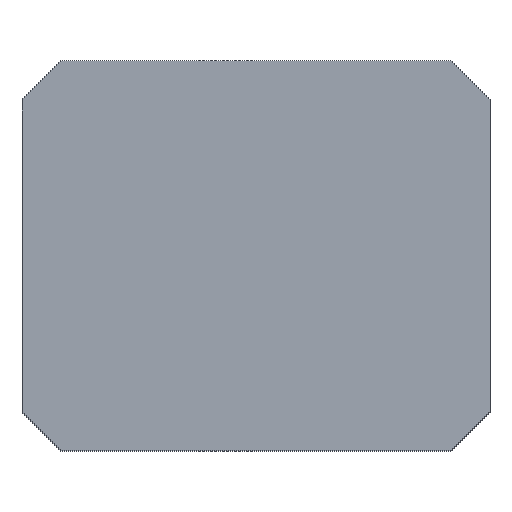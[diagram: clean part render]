
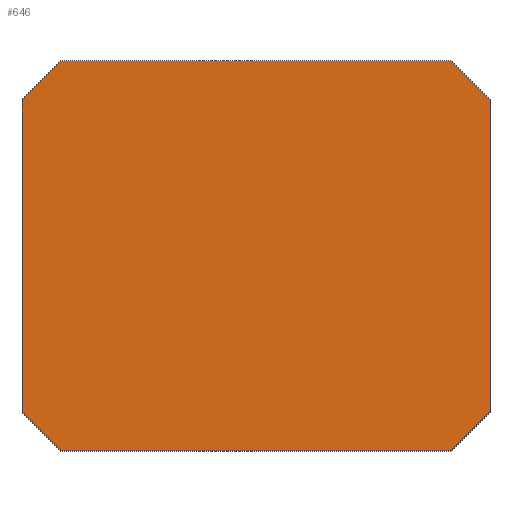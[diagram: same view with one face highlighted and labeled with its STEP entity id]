
A CAD part, top view. The second image highlights one B-rep face of the part: STEP entity #646.
In plain terms, the highlighted planar face has unit normal (0, 0, 1).
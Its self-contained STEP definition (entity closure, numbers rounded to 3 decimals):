
#24 = VERTEX_POINT('',#25);
#25 = CARTESIAN_POINT('',(-5.,-5.,28.685));
#32 = PLANE('',#33);
#33 = AXIS2_PLACEMENT_3D('',#34,#35,#36);
#34 = CARTESIAN_POINT('',(-5.,-5.,27.685));
#35 = DIRECTION('',(0.,1.,0.));
#36 = DIRECTION('',(1.,0.,0.));
#44 = PLANE('',#45);
#45 = AXIS2_PLACEMENT_3D('',#46,#47,#48);
#46 = CARTESIAN_POINT('',(-6.,-4.,27.685));
#47 = DIRECTION('',(0.707,0.707,-0.));
#48 = DIRECTION('',(0.707,-0.707,0.));
#56 = EDGE_CURVE('',#24,#57,#59,.T.);
#57 = VERTEX_POINT('',#58);
#58 = CARTESIAN_POINT('',(5.,-5.,28.685));
#59 = SURFACE_CURVE('',#60,(#64,#71),.PCURVE_S1.);
#60 = LINE('',#61,#62);
#61 = CARTESIAN_POINT('',(-5.,-5.,28.685));
#62 = VECTOR('',#63,1.);
#63 = DIRECTION('',(1.,0.,0.));
#64 = PCURVE('',#32,#65);
#65 = DEFINITIONAL_REPRESENTATION('',(#66),#70);
#66 = LINE('',#67,#68);
#67 = CARTESIAN_POINT('',(0.,-1.));
#68 = VECTOR('',#69,1.);
#69 = DIRECTION('',(1.,0.));
#70 = ( GEOMETRIC_REPRESENTATION_CONTEXT(2) 
PARAMETRIC_REPRESENTATION_CONTEXT() REPRESENTATION_CONTEXT('2D SPACE',''
  ) );
#71 = PCURVE('',#72,#77);
#72 = PLANE('',#73);
#73 = AXIS2_PLACEMENT_3D('',#74,#75,#76);
#74 = CARTESIAN_POINT('',(0.,0.,28.685)
  );
#75 = DIRECTION('',(0.,0.,1.));
#76 = DIRECTION('',(1.,0.,-0.));
#77 = DEFINITIONAL_REPRESENTATION('',(#78),#82);
#78 = LINE('',#79,#80);
#79 = CARTESIAN_POINT('',(-5.,-5.));
#80 = VECTOR('',#81,1.);
#81 = DIRECTION('',(1.,0.));
#82 = ( GEOMETRIC_REPRESENTATION_CONTEXT(2) 
PARAMETRIC_REPRESENTATION_CONTEXT() REPRESENTATION_CONTEXT('2D SPACE',''
  ) );
#100 = PLANE('',#101);
#101 = AXIS2_PLACEMENT_3D('',#102,#103,#104);
#102 = CARTESIAN_POINT('',(5.,-5.,27.685));
#103 = DIRECTION('',(-0.707,0.707,0.));
#104 = DIRECTION('',(0.707,0.707,0.));
#142 = EDGE_CURVE('',#57,#143,#145,.T.);
#143 = VERTEX_POINT('',#144);
#144 = CARTESIAN_POINT('',(6.,-4.,28.685));
#145 = SURFACE_CURVE('',#146,(#150,#157),.PCURVE_S1.);
#146 = LINE('',#147,#148);
#147 = CARTESIAN_POINT('',(5.,-5.,28.685));
#148 = VECTOR('',#149,1.);
#149 = DIRECTION('',(0.707,0.707,0.));
#150 = PCURVE('',#100,#151);
#151 = DEFINITIONAL_REPRESENTATION('',(#152),#156);
#152 = LINE('',#153,#154);
#153 = CARTESIAN_POINT('',(0.,-1.));
#154 = VECTOR('',#155,1.);
#155 = DIRECTION('',(1.,0.));
#156 = ( GEOMETRIC_REPRESENTATION_CONTEXT(2) 
PARAMETRIC_REPRESENTATION_CONTEXT() REPRESENTATION_CONTEXT('2D SPACE',''
  ) );
#157 = PCURVE('',#72,#158);
#158 = DEFINITIONAL_REPRESENTATION('',(#159),#163);
#159 = LINE('',#160,#161);
#160 = CARTESIAN_POINT('',(5.,-5.));
#161 = VECTOR('',#162,1.);
#162 = DIRECTION('',(0.707,0.707));
#163 = ( GEOMETRIC_REPRESENTATION_CONTEXT(2) 
PARAMETRIC_REPRESENTATION_CONTEXT() REPRESENTATION_CONTEXT('2D SPACE',''
  ) );
#181 = PLANE('',#182);
#182 = AXIS2_PLACEMENT_3D('',#183,#184,#185);
#183 = CARTESIAN_POINT('',(6.,-4.,27.685));
#184 = DIRECTION('',(-1.,0.,0.));
#185 = DIRECTION('',(0.,1.,0.));
#218 = EDGE_CURVE('',#143,#219,#221,.T.);
#219 = VERTEX_POINT('',#220);
#220 = CARTESIAN_POINT('',(6.,4.,28.685));
#221 = SURFACE_CURVE('',#222,(#226,#233),.PCURVE_S1.);
#222 = LINE('',#223,#224);
#223 = CARTESIAN_POINT('',(6.,-4.,28.685));
#224 = VECTOR('',#225,1.);
#225 = DIRECTION('',(0.,1.,0.));
#226 = PCURVE('',#181,#227);
#227 = DEFINITIONAL_REPRESENTATION('',(#228),#232);
#228 = LINE('',#229,#230);
#229 = CARTESIAN_POINT('',(0.,-1.));
#230 = VECTOR('',#231,1.);
#231 = DIRECTION('',(1.,0.));
#232 = ( GEOMETRIC_REPRESENTATION_CONTEXT(2) 
PARAMETRIC_REPRESENTATION_CONTEXT() REPRESENTATION_CONTEXT('2D SPACE',''
  ) );
#233 = PCURVE('',#72,#234);
#234 = DEFINITIONAL_REPRESENTATION('',(#235),#239);
#235 = LINE('',#236,#237);
#236 = CARTESIAN_POINT('',(6.,-4.));
#237 = VECTOR('',#238,1.);
#238 = DIRECTION('',(0.,1.));
#239 = ( GEOMETRIC_REPRESENTATION_CONTEXT(2) 
PARAMETRIC_REPRESENTATION_CONTEXT() REPRESENTATION_CONTEXT('2D SPACE',''
  ) );
#257 = PLANE('',#258);
#258 = AXIS2_PLACEMENT_3D('',#259,#260,#261);
#259 = CARTESIAN_POINT('',(6.,4.,27.685));
#260 = DIRECTION('',(-0.707,-0.707,0.));
#261 = DIRECTION('',(-0.707,0.707,0.));
#294 = EDGE_CURVE('',#219,#295,#297,.T.);
#295 = VERTEX_POINT('',#296);
#296 = CARTESIAN_POINT('',(5.,5.,28.685));
#297 = SURFACE_CURVE('',#298,(#302,#309),.PCURVE_S1.);
#298 = LINE('',#299,#300);
#299 = CARTESIAN_POINT('',(6.,4.,28.685));
#300 = VECTOR('',#301,1.);
#301 = DIRECTION('',(-0.707,0.707,0.));
#302 = PCURVE('',#257,#303);
#303 = DEFINITIONAL_REPRESENTATION('',(#304),#308);
#304 = LINE('',#305,#306);
#305 = CARTESIAN_POINT('',(0.,-1.));
#306 = VECTOR('',#307,1.);
#307 = DIRECTION('',(1.,0.));
#308 = ( GEOMETRIC_REPRESENTATION_CONTEXT(2) 
PARAMETRIC_REPRESENTATION_CONTEXT() REPRESENTATION_CONTEXT('2D SPACE',''
  ) );
#309 = PCURVE('',#72,#310);
#310 = DEFINITIONAL_REPRESENTATION('',(#311),#315);
#311 = LINE('',#312,#313);
#312 = CARTESIAN_POINT('',(6.,4.));
#313 = VECTOR('',#314,1.);
#314 = DIRECTION('',(-0.707,0.707));
#315 = ( GEOMETRIC_REPRESENTATION_CONTEXT(2) 
PARAMETRIC_REPRESENTATION_CONTEXT() REPRESENTATION_CONTEXT('2D SPACE',''
  ) );
#333 = PLANE('',#334);
#334 = AXIS2_PLACEMENT_3D('',#335,#336,#337);
#335 = CARTESIAN_POINT('',(5.,5.,27.685));
#336 = DIRECTION('',(0.,-1.,0.));
#337 = DIRECTION('',(-1.,0.,0.));
#370 = EDGE_CURVE('',#295,#371,#373,.T.);
#371 = VERTEX_POINT('',#372);
#372 = CARTESIAN_POINT('',(-5.,5.,28.685));
#373 = SURFACE_CURVE('',#374,(#378,#385),.PCURVE_S1.);
#374 = LINE('',#375,#376);
#375 = CARTESIAN_POINT('',(5.,5.,28.685));
#376 = VECTOR('',#377,1.);
#377 = DIRECTION('',(-1.,0.,0.));
#378 = PCURVE('',#333,#379);
#379 = DEFINITIONAL_REPRESENTATION('',(#380),#384);
#380 = LINE('',#381,#382);
#381 = CARTESIAN_POINT('',(0.,-1.));
#382 = VECTOR('',#383,1.);
#383 = DIRECTION('',(1.,0.));
#384 = ( GEOMETRIC_REPRESENTATION_CONTEXT(2) 
PARAMETRIC_REPRESENTATION_CONTEXT() REPRESENTATION_CONTEXT('2D SPACE',''
  ) );
#385 = PCURVE('',#72,#386);
#386 = DEFINITIONAL_REPRESENTATION('',(#387),#391);
#387 = LINE('',#388,#389);
#388 = CARTESIAN_POINT('',(5.,5.));
#389 = VECTOR('',#390,1.);
#390 = DIRECTION('',(-1.,0.));
#391 = ( GEOMETRIC_REPRESENTATION_CONTEXT(2) 
PARAMETRIC_REPRESENTATION_CONTEXT() REPRESENTATION_CONTEXT('2D SPACE',''
  ) );
#409 = PLANE('',#410);
#410 = AXIS2_PLACEMENT_3D('',#411,#412,#413);
#411 = CARTESIAN_POINT('',(-5.,5.,27.685));
#412 = DIRECTION('',(0.707,-0.707,0.));
#413 = DIRECTION('',(-0.707,-0.707,0.));
#446 = EDGE_CURVE('',#371,#447,#449,.T.);
#447 = VERTEX_POINT('',#448);
#448 = CARTESIAN_POINT('',(-6.,4.,28.685));
#449 = SURFACE_CURVE('',#450,(#454,#461),.PCURVE_S1.);
#450 = LINE('',#451,#452);
#451 = CARTESIAN_POINT('',(-5.,5.,28.685));
#452 = VECTOR('',#453,1.);
#453 = DIRECTION('',(-0.707,-0.707,0.));
#454 = PCURVE('',#409,#455);
#455 = DEFINITIONAL_REPRESENTATION('',(#456),#460);
#456 = LINE('',#457,#458);
#457 = CARTESIAN_POINT('',(0.,-1.));
#458 = VECTOR('',#459,1.);
#459 = DIRECTION('',(1.,0.));
#460 = ( GEOMETRIC_REPRESENTATION_CONTEXT(2) 
PARAMETRIC_REPRESENTATION_CONTEXT() REPRESENTATION_CONTEXT('2D SPACE',''
  ) );
#461 = PCURVE('',#72,#462);
#462 = DEFINITIONAL_REPRESENTATION('',(#463),#467);
#463 = LINE('',#464,#465);
#464 = CARTESIAN_POINT('',(-5.,5.));
#465 = VECTOR('',#466,1.);
#466 = DIRECTION('',(-0.707,-0.707));
#467 = ( GEOMETRIC_REPRESENTATION_CONTEXT(2) 
PARAMETRIC_REPRESENTATION_CONTEXT() REPRESENTATION_CONTEXT('2D SPACE',''
  ) );
#485 = PLANE('',#486);
#486 = AXIS2_PLACEMENT_3D('',#487,#488,#489);
#487 = CARTESIAN_POINT('',(-6.,4.,27.685));
#488 = DIRECTION('',(1.,0.,-0.));
#489 = DIRECTION('',(0.,-1.,0.));
#522 = EDGE_CURVE('',#447,#523,#525,.T.);
#523 = VERTEX_POINT('',#524);
#524 = CARTESIAN_POINT('',(-6.,-4.,28.685));
#525 = SURFACE_CURVE('',#526,(#530,#537),.PCURVE_S1.);
#526 = LINE('',#527,#528);
#527 = CARTESIAN_POINT('',(-6.,4.,28.685));
#528 = VECTOR('',#529,1.);
#529 = DIRECTION('',(0.,-1.,0.));
#530 = PCURVE('',#485,#531);
#531 = DEFINITIONAL_REPRESENTATION('',(#532),#536);
#532 = LINE('',#533,#534);
#533 = CARTESIAN_POINT('',(0.,-1.));
#534 = VECTOR('',#535,1.);
#535 = DIRECTION('',(1.,0.));
#536 = ( GEOMETRIC_REPRESENTATION_CONTEXT(2) 
PARAMETRIC_REPRESENTATION_CONTEXT() REPRESENTATION_CONTEXT('2D SPACE',''
  ) );
#537 = PCURVE('',#72,#538);
#538 = DEFINITIONAL_REPRESENTATION('',(#539),#543);
#539 = LINE('',#540,#541);
#540 = CARTESIAN_POINT('',(-6.,4.));
#541 = VECTOR('',#542,1.);
#542 = DIRECTION('',(0.,-1.));
#543 = ( GEOMETRIC_REPRESENTATION_CONTEXT(2) 
PARAMETRIC_REPRESENTATION_CONTEXT() REPRESENTATION_CONTEXT('2D SPACE',''
  ) );
#593 = EDGE_CURVE('',#523,#24,#594,.T.);
#594 = SURFACE_CURVE('',#595,(#599,#606),.PCURVE_S1.);
#595 = LINE('',#596,#597);
#596 = CARTESIAN_POINT('',(-6.,-4.,28.685));
#597 = VECTOR('',#598,1.);
#598 = DIRECTION('',(0.707,-0.707,0.));
#599 = PCURVE('',#44,#600);
#600 = DEFINITIONAL_REPRESENTATION('',(#601),#605);
#601 = LINE('',#602,#603);
#602 = CARTESIAN_POINT('',(0.,-1.));
#603 = VECTOR('',#604,1.);
#604 = DIRECTION('',(1.,0.));
#605 = ( GEOMETRIC_REPRESENTATION_CONTEXT(2) 
PARAMETRIC_REPRESENTATION_CONTEXT() REPRESENTATION_CONTEXT('2D SPACE',''
  ) );
#606 = PCURVE('',#72,#607);
#607 = DEFINITIONAL_REPRESENTATION('',(#608),#612);
#608 = LINE('',#609,#610);
#609 = CARTESIAN_POINT('',(-6.,-4.));
#610 = VECTOR('',#611,1.);
#611 = DIRECTION('',(0.707,-0.707));
#612 = ( GEOMETRIC_REPRESENTATION_CONTEXT(2) 
PARAMETRIC_REPRESENTATION_CONTEXT() REPRESENTATION_CONTEXT('2D SPACE',''
  ) );
#646 = ADVANCED_FACE('',(#647),#72,.T.);
#647 = FACE_BOUND('',#648,.T.);
#648 = EDGE_LOOP('',(#649,#650,#651,#652,#653,#654,#655,#656));
#649 = ORIENTED_EDGE('',*,*,#56,.T.);
#650 = ORIENTED_EDGE('',*,*,#142,.T.);
#651 = ORIENTED_EDGE('',*,*,#218,.T.);
#652 = ORIENTED_EDGE('',*,*,#294,.T.);
#653 = ORIENTED_EDGE('',*,*,#370,.T.);
#654 = ORIENTED_EDGE('',*,*,#446,.T.);
#655 = ORIENTED_EDGE('',*,*,#522,.T.);
#656 = ORIENTED_EDGE('',*,*,#593,.T.);
